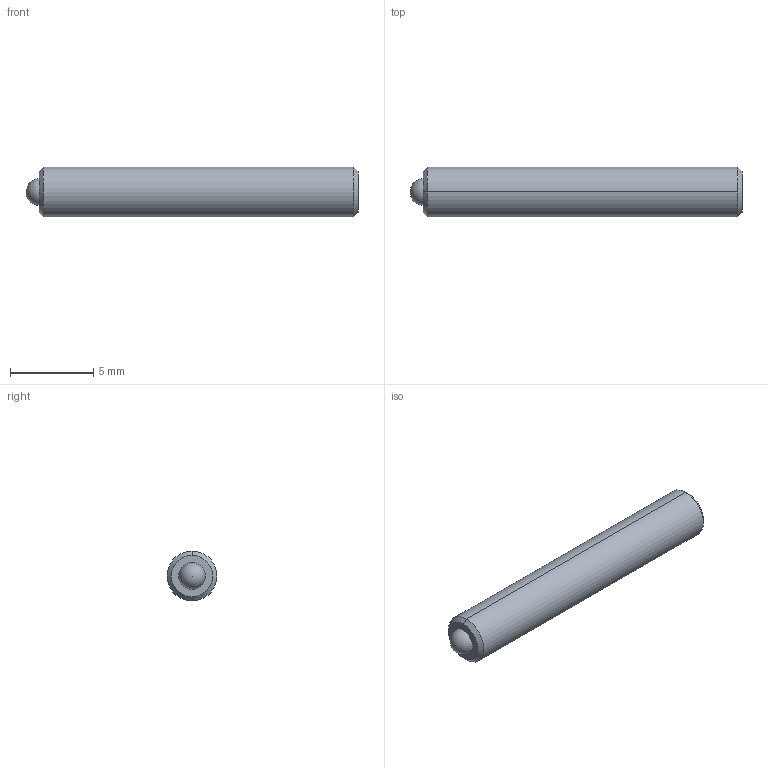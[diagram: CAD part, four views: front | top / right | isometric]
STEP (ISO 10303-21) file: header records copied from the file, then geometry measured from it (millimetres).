
FILE_DESCRIPTION (( 'STEP AP214' ), '1' );
FILE_NAME ('TS3-25-20.STEP', '2013-02-13T16:13:20', ( 'workpc' ), ( 'Microsoft' ), 'SwSTEP 2.0', 'SolidWorks 2013', '' );
FILE_SCHEMA (( 'AUTOMOTIVE_DESIGN' ));
Length unit declared in the file: millimetre
Products named in the file (1): TS3-25-20
Bounding box: 20 x 3 x 3 mm (x, y, z)
Volume: 131.8 mm3; surface area: 214.6 mm2
Topology: 2 solids, 2 shells, 20 faces, 45 edges, 29 vertices
Faces by surface type: plane 10, cylinder 4, cone 4, sphere 2
Entity records: 587 total; most frequent: DIRECTION 96, CARTESIAN_POINT 87, ORIENTED_EDGE 80, EDGE_CURVE 40, AXIS2_PLACEMENT_3D 35, LINE 26, VECTOR 26, VERTEX_POINT 26
